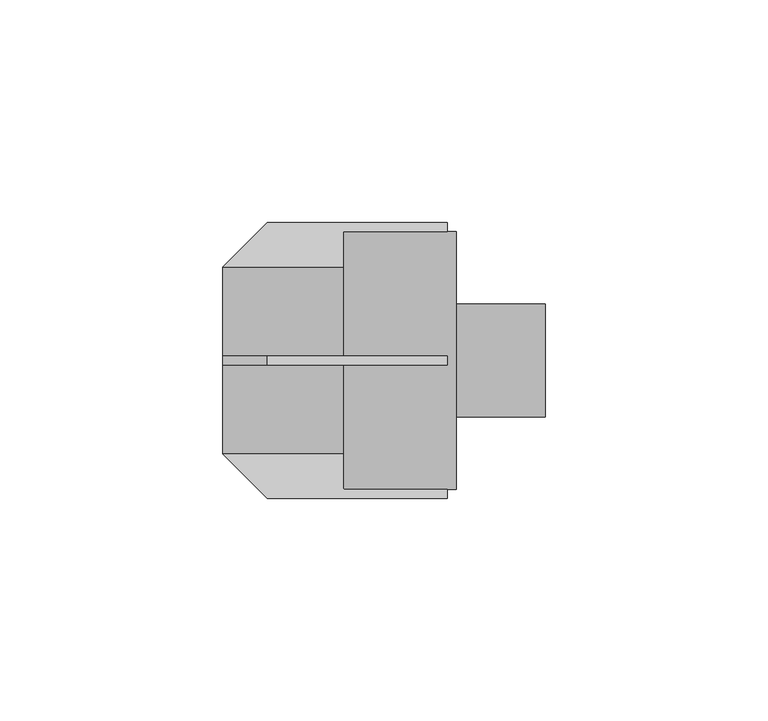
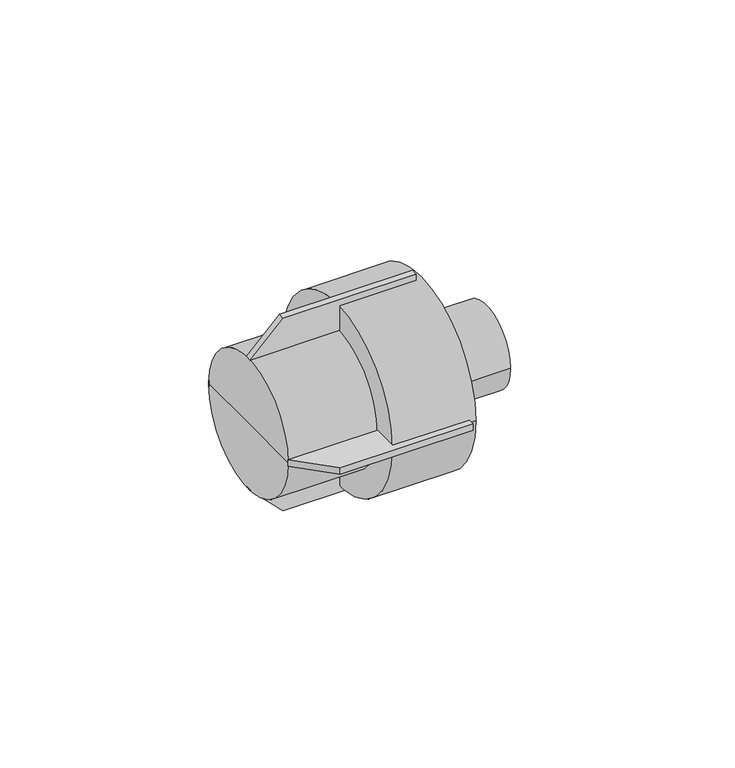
"""IFC4 building model written with IfcOpenShell, lengths in millimetres: pipe fitting geometry, KAN-therm PP mufa gz z sześciokątem : KAN-therm PP mufa gz z sześciokątem."""

from ifc_helpers import new_model, si_unit, frame, origin, place, context, project, spatial, polyline, circle_curve, outline, extrude, source, transform, mapped, element, save
from ifc_brep_helpers import plane_surface, cylinder_surface, advanced_brep


def pipe_fitting_272f826c(model_context):
    return source(origin(), model_context, "Body", "SolidModel", [
        extrude(outline(polyline([(21.0, -18.1), (21.0, 9.075), (29.0, 9.075), (29.0, 32.4), (31.0, 32.4), (31.0, -8.1), (21.0, -18.1)])), frame((0.0, -1.0, 0.0), z_axis=(0.0, 1.0, 0.0), x_axis=(0.0, 0.0, 1.0)), (0.0, 0.0, 1.0), 2.0),
        extrude(outline(polyline([(-21.0, -18.1), (-31.0, -8.1), (-31.0, 32.4), (-29.0, 32.4), (-29.0, 9.075), (-21.0, 9.075), (-21.0, -18.1)])), frame((0.0, -1.0, 0.0), z_axis=(0.0, 1.0, 0.0), x_axis=(0.0, 0.0, 1.0)), (0.0, 0.0, 1.0), 2.0),
        extrude(outline(polyline([(9.075, 21.0), (-18.1, 21.0), (-8.1, 31.0), (32.4, 31.0), (32.4, 29.0), (9.075, 29.0), (9.075, 21.0)])), frame((0.0, 0.0, -1.0), z_axis=(0.0, 0.0, 1.0), x_axis=(1.0, 0.0, 0.0)), (0.0, 0.0, 1.0), 2.0),
        extrude(outline(polyline([(-18.1, -21.0), (9.075, -21.0), (9.075, -29.0), (32.4, -29.0), (32.4, -31.0), (-8.1, -31.0), (-18.1, -21.0)])), frame((0.0, 0.0, -1.0), z_axis=(0.0, 0.0, 1.0), x_axis=(1.0, 0.0, 0.0)), (0.0, 0.0, 1.0), 2.0),
        advanced_brep(
        [(54.4, -12.7, 0.0), (54.4, 12.7, 0.0), (54.4, 0.0, 0.0), (9.075, -29.0, 0.0), (9.075, 29.0, 0.0), (34.4, 29.0, 0.0), (34.4, -29.0, 0.0), (-18.1, 0.0, 0.0), (-18.1, 21.0, 0.0), (-18.1, -21.0, 0.0), (9.075, -21.0, 0.0), (9.075, 21.0, 0.0), (34.4, -12.7, 0.0), (34.4, 12.7, 0.0)],
        [
            (0, 1, circle_curve(frame((54.4, 0.0, 0.0), z_axis=(1.0, 0.0, 0.0), x_axis=(0.0, 1.0, 0.0)), 12.7)),
            (1, 2),
            (2, 0),
            (1, 0, circle_curve(frame((54.4, 0.0, 0.0), z_axis=(1.0, 0.0, 0.0), x_axis=(0.0, 1.0, 0.0)), 12.7)),
            (3, 4, circle_curve(frame((9.075, 0.0, 0.0), z_axis=(1.0, 0.0, 0.0), x_axis=(0.0, 1.0, 0.0)), 29.0)),
            (4, 5),
            (5, 6, circle_curve(frame((34.4, 0.0, 0.0), z_axis=(-1.0, 0.0, 0.0), x_axis=(0.0, 1.0, 0.0)), 29.0)),
            (6, 3),
            (4, 3, circle_curve(frame((9.075, 0.0, 0.0), z_axis=(1.0, 0.0, 0.0), x_axis=(0.0, 1.0, 0.0)), 29.0)),
            (6, 5, circle_curve(frame((34.4, 0.0, 0.0), z_axis=(-1.0, 0.0, 0.0), x_axis=(0.0, 1.0, 0.0)), 29.0)),
            (7, 8),
            (8, 9, circle_curve(frame((-18.1, 0.0, 0.0), z_axis=(-1.0, 0.0, 0.0), x_axis=(0.0, 1.0, 0.0)), 21.0)),
            (9, 7),
            (9, 8, circle_curve(frame((-18.1, 0.0, 0.0), z_axis=(-1.0, 0.0, 0.0), x_axis=(0.0, 1.0, 0.0)), 21.0)),
            (10, 11, circle_curve(frame((9.075, 0.0, 0.0), z_axis=(1.0, 0.0, 0.0), x_axis=(0.0, 1.0, 0.0)), 21.0)),
            (11, 4),
            (3, 10),
            (11, 10, circle_curve(frame((9.075, 0.0, 0.0), z_axis=(1.0, 0.0, 0.0), x_axis=(0.0, 1.0, 0.0)), 21.0)),
            (8, 11),
            (10, 9),
            (12, 13, circle_curve(frame((34.4, 0.0, 0.0), z_axis=(1.0, 0.0, 0.0), x_axis=(0.0, 1.0, 0.0)), 12.7)),
            (13, 1),
            (0, 12),
            (13, 12, circle_curve(frame((34.4, 0.0, 0.0), z_axis=(1.0, 0.0, 0.0), x_axis=(0.0, 1.0, 0.0)), 12.7)),
            (5, 13),
            (12, 6),
        ],
        [
            plane_surface(frame((54.4, 0.0, 0.0), z_axis=(1.0, 0.0, 0.0), x_axis=(0.0, 1.0, 0.0))),
            cylinder_surface(frame((1368.142668, 0.0, 0.0), z_axis=(-1.0, 0.0, 0.0), x_axis=(0.0, 1.0, 0.0)), 29.0),
            plane_surface(frame((-18.1, 0.0, 0.0), z_axis=(-1.0, 0.0, 0.0), x_axis=(0.0, 1.0, 0.0))),
            plane_surface(frame((9.075, 0.0, 0.0), z_axis=(-1.0, 0.0, 0.0), x_axis=(0.0, 1.0, 0.0))),
            cylinder_surface(frame((1368.142668, 0.0, 0.0), z_axis=(-1.0, 0.0, 0.0), x_axis=(0.0, 1.0, 0.0)), 21.0),
            cylinder_surface(frame((1368.142668, 0.0, 0.0), z_axis=(-1.0, 0.0, 0.0), x_axis=(0.0, 1.0, 0.0)), 12.7),
            plane_surface(frame((34.4, 0.0, 0.0), z_axis=(1.0, 0.0, 0.0), x_axis=(0.0, 1.0, 0.0))),
        ],
        [
            (0, [[1, 2, 3]]),
            (0, [[4, -3, -2]]),
            (1, [[5, 6, 7, 8]]),
            (1, [[9, -8, 10, -6]]),
            (2, [[11, 12, 13]]),
            (2, [[-13, 14, -11]]),
            (3, [[15, 16, -5, 17]]),
            (3, [[18, -17, -9, -16]]),
            (4, [[-12, 19, -15, 20]]),
            (4, [[-14, -20, -18, -19]]),
            (5, [[21, 22, -1, 23]]),
            (5, [[24, -23, -4, -22]]),
            (6, [[-7, 25, -21, 26]]),
            (6, [[-10, -26, -24, -25]]),
        ],
    ),
    ])


if __name__ == "__main__":
    model = new_model("IFC4")
    model_context = context("Model", 3, world=origin())
    ifc_project = project(units=[si_unit("LENGTHUNIT", "METRE", prefix="MILLI")], contexts=[model_context])
    site = spatial("IfcSite", under=ifc_project)
    building = spatial("IfcBuilding", under=site)
    placement = place(None, origin())
    pipe_fitting_shape = pipe_fitting_272f826c(model_context)
    element("IfcPipeFitting", 1, ObjectType="KAN-therm PP mufa gz z sześciokątem : KAN-therm PP mufa gz z sześciokątem", at=placement, inside=building, context=model_context, shape_type="MappedRepresentation", body=[
        mapped(pipe_fitting_shape, transform((0.0, 0.0, 0.0), x_axis=(1.0, 0.0, 0.0), y_axis=(0.0, 1.0, 0.0), z_axis=(0.0, 0.0, 1.0))),
    ])
    save(model, "model.ifc")
